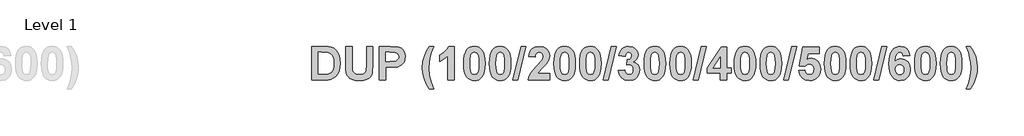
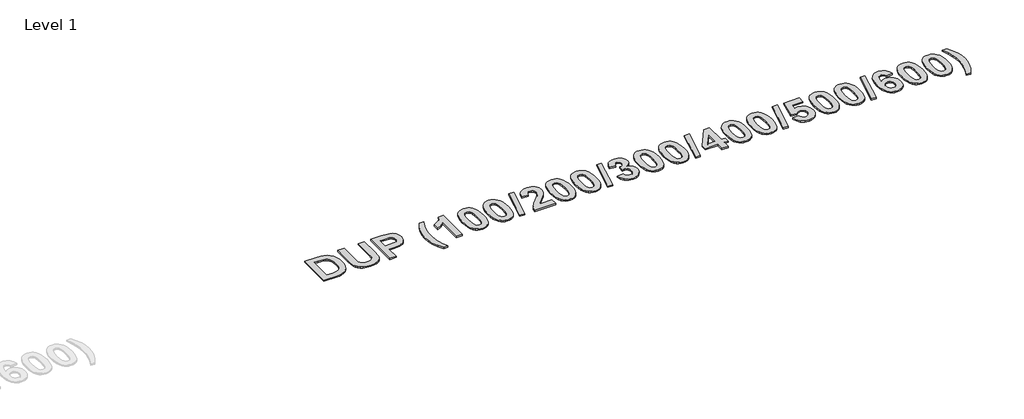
# One storey, part 39 of 42: 1 proxy.
"""IFC4 building model written with IfcOpenShell, lengths in millimetres."""

from ifc_helpers import new_model, si_unit, origin, origin_with_axes, place, context, project, spatial, polyline, outline, extrude, element, save

model = new_model("IFC4")

# Units and contexts
model_context = context("Model", 3, world=origin())
ifc_project = project(units=[si_unit("LENGTHUNIT", "METRE", prefix="MILLI")], contexts=[model_context])

# Site, building, storey
site = spatial("IfcSite", under=ifc_project)
building = spatial("IfcBuilding", under=site)
storey = spatial("IfcBuildingStorey", under=building, Name="Level 1", Elevation=0.0)

# Proxy
placement = place(None, origin())
element("IfcBuildingElementProxy", 1, Name="300mm Arial 2", ObjectType="300mm Arial 2", at=placement, inside=storey, context=model_context, shape_type="SweptSolid", body=[
    extrude(outline(polyline([(37906.8730509, 14542.68636), (38001.3204272, 14542.68636), (38029.4711857, 14541.4686025), (38050.0307284, 14537.8153299), (38070.9382018, 14528.6188883), (38088.6194086, 14514.314191), (38102.7659555, 14495.5575621), (38113.0694494, 14473.0053252), (38119.3559249, 14445.700671), (38121.4514168, 14412.6867899), (38119.4903527, 14383.397349), (38113.6071605, 14358.4095971), (38101.9356662, 14333.2320648), (38086.1522634, 14313.3683835), (38070.3688606, 14301.7601494), (38049.840948, 14292.9986212), (38029.8665615, 14288.9657878), (38004.103873, 14287.62151), (37906.8730509, 14287.62151), (37906.8730509, 14542.68636)]), holes=[polyline([(37955.4568319, 14498.1512275), (37955.4568319, 14332.1566425), (37996.8289578, 14332.1566425), (38030.3568275, 14334.5605275), (38052.719284, 14344.9668192), (38060.7928582, 14354.7009719), (38067.2374841, 14369.1638194), (38071.4600979, 14389.0591308), (38072.8676358, 14415.0906749), (38071.4600979, 14440.7584732), (38067.2374841, 14459.6890675), (38060.4923726, 14473.5430363), (38051.5173415, 14483.980958), (38040.0593502, 14491.2875032), (38025.8653582, 14495.7473425), (37980.3813237, 14498.1512275), (37955.4568319, 14498.1512275)])]), origin_with_axes(), (0.0, 0.0, 1.0), 10.0),
    extrude(outline(polyline([(38161.9379009, 14542.68636), (38210.5216819, 14542.68636), (38210.5216819, 14405.0955741), (38212.6092662, 14362.5847658), (38218.6980538, 14348.5489241), (38229.7527618, 14337.5653838), (38245.7733901, 14330.4723415), (38266.7599387, 14328.1079941), (38287.7227648, 14330.3379138), (38302.7865836, 14337.0276727), (38312.4891062, 14346.9674208), (38317.3680439, 14358.9473082), (38319.835189, 14402.1223479), (38319.835189, 14542.68636), (38368.4189699, 14542.68636), (38368.4189699, 14408.891182), (38364.1805411, 14344.0495473), (38358.1550136, 14326.5976585), (38348.5552887, 14312.0715508), (38335.2469385, 14300.3447039), (38318.0955354, 14291.2905976), (38296.1047322, 14285.5022956), (38268.2781819, 14283.5728616), (38235.6833991, 14285.676261), (38212.039925, 14291.9864591), (38194.8806144, 14301.6652592), (38181.7383221, 14313.8744646), (38172.5023429, 14327.6809882), (38167.0619716, 14342.1517433), (38163.2189186, 14369.2587096), (38161.9379009, 14406.8035977), (38161.9379009, 14542.68636)])), origin_with_axes(), (0.0, 0.0, 1.0), 10.0),
    extrude(outline(polyline([(38417.0027509, 14287.62151), (38417.0027509, 14542.68636), (38499.1776616, 14542.68636), (38560.0971682, 14538.8907521), (38580.1427224, 14529.8366458), (38596.6298941, 14514.0611505), (38607.6608796, 14492.1494225), (38611.3378747, 14464.6866179), (38609.1791227, 14443.2018958), (38602.7028668, 14425.4337064), (38592.8975464, 14411.2318069), (38580.7516011, 14400.4459544), (38553.707895, 14388.3948994), (38499.6204826, 14384.7890719), (38465.5865318, 14384.7890719), (38465.5865318, 14287.62151), (38417.0027509, 14287.62151)]), holes=[polyline([(38465.5865318, 14498.1512275), (38465.5865318, 14429.3242044), (38495.7616145, 14429.3242044), (38539.316215, 14433.1198123), (38556.5229708, 14445.0443471), (38561.196313, 14453.8295979), (38562.7540937, 14463.9274964), (38560.5637117, 14475.9943664), (38553.9925655, 14485.7522417), (38544.0844475, 14492.7424862), (38531.8831496, 14496.506464), (38492.2190472, 14498.1512275), (38465.5865318, 14498.1512275)])]), origin_with_axes(), (0.0, 0.0, 1.0), 10.0),
    extrude(outline(polyline([(38825.9162406, 14218.794487), (38793.5270533, 14218.794487), (38770.8562037, 14258.4664969), (38754.3374018, 14299.6725651), (38744.2553184, 14340.9735234), (38740.8946239, 14380.9302039), (38745.0065324, 14428.3278574), (38757.3422581, 14473.1002154), (38773.5368517, 14509.3799008), (38793.5270533, 14542.68636), (38825.9162406, 14542.68636), (38808.3536466, 14495.4468568), (38797.2910311, 14455.8301995), (38791.4315614, 14418.9495429), (38789.4784049, 14379.9180418), (38794.1596546, 14323.2685941), (38807.0014613, 14268.2006497), (38825.9162406, 14218.794487)])), origin_with_axes(), (0.0, 0.0, 1.0), 10.0),
    extrude(outline(polyline([(38979.7648802, 14287.62151), (38931.1810993, 14287.62151), (38931.1810993, 14469.9372088), (38903.125231, 14446.0565092), (38870.4513731, 14429.3242044), (38870.4513731, 14477.9079854), (38889.9196786, 14486.9937218), (38911.0011174, 14501.7254249), (38929.4572607, 14520.7430019), (38941.0496798, 14542.68636), (38979.7648802, 14542.68636), (38979.7648802, 14287.62151)])), origin_with_axes(), (0.0, 0.0, 1.0), 10.0),
    extrude(outline(polyline([(39133.6135199, 14542.68636), (39150.7451543, 14541.0415966), (39165.892002, 14536.1073063), (39179.0540631, 14527.8834892), (39190.2313376, 14516.3701453), (39200.886716, 14498.2421639), (39208.4977005, 14474.9822043), (39213.0642913, 14446.5902666), (39214.5864882, 14413.0663507), (39213.0563837, 14379.5740648), (39208.4660704, 14351.150497), (39200.8155483, 14327.7956472), (39190.1048173, 14309.5095155), (39178.9828954, 14298.1622294), (39165.8603719, 14290.0570251), (39150.7372467, 14285.1939025), (39133.6135199, 14283.5728616), (39116.3059433, 14285.3520528), (39100.7577891, 14290.6896264), (39086.9690574, 14299.5855824), (39074.939748, 14312.0399207), (39065.1838496, 14329.0608499), (39058.2153507, 14351.6565781), (39054.0342514, 14379.8271054), (39052.6405517, 14413.5724317), (39054.1706561, 14446.8986597), (39058.7609694, 14475.2036148), (39066.4114915, 14498.4872969), (39077.1222225, 14516.7497061), (39088.2441444, 14528.0969922), (39101.3666679, 14536.2021965), (39116.4897931, 14541.0653191), (39133.6135199, 14542.68636)]), holes=[polyline([(39133.6135199, 14498.1512275), (39117.4189263, 14492.8057464), (39111.0929131, 14485.3331433), (39106.4116634, 14473.6062965), (39102.5211653, 14449.4567413), (39101.2243326, 14413.0663507), (39102.37883, 14377.1583186), (39105.8423222, 14354.5823591), (39111.0691906, 14341.3293616), (39117.5138165, 14333.3902151), (39133.6135199, 14328.1079941), (39149.8081136, 14333.4534752), (39156.1341267, 14340.9260783), (39160.8153764, 14352.6529251), (39164.7058745, 14376.6759601), (39166.0027072, 14413.0663507), (39164.8482098, 14448.9348452), (39161.3847176, 14471.5187121), (39156.1578493, 14484.8112472), (39149.7132234, 14492.8057464), (39133.6135199, 14498.1512275)])]), origin_with_axes(), (0.0, 0.0, 1.0), 10.0),
    extrude(outline(polyline([(39327.9486437, 14542.68636), (39345.0802781, 14541.0415966), (39360.2271258, 14536.1073063), (39373.3891869, 14527.8834892), (39384.5664614, 14516.3701453), (39395.2218398, 14498.2421639), (39402.8328243, 14474.9822043), (39407.3994151, 14446.5902666), (39408.921612, 14413.0663507), (39407.3915075, 14379.5740648), (39402.8011943, 14351.150497), (39395.1506721, 14327.7956472), (39384.4399411, 14309.5095155), (39373.3180192, 14298.1622294), (39360.1954957, 14290.0570251), (39345.0723705, 14285.1939025), (39327.9486437, 14283.5728616), (39310.6410671, 14285.3520528), (39295.0929129, 14290.6896264), (39281.3041812, 14299.5855824), (39269.2748718, 14312.0399207), (39259.5189734, 14329.0608499), (39252.5504746, 14351.6565781), (39248.3693752, 14379.8271054), (39246.9756755, 14413.5724317), (39248.5057799, 14446.8986597), (39253.0960932, 14475.2036148), (39260.7466153, 14498.4872969), (39271.4573463, 14516.7497061), (39282.5792682, 14528.0969922), (39295.7017917, 14536.2021965), (39310.8249169, 14541.0653191), (39327.9486437, 14542.68636)]), holes=[polyline([(39327.9486437, 14498.1512275), (39311.7540501, 14492.8057464), (39305.4280369, 14485.3331433), (39300.7467872, 14473.6062965), (39296.8562891, 14449.4567413), (39295.5594564, 14413.0663507), (39296.7139538, 14377.1583186), (39300.177446, 14354.5823591), (39305.4043144, 14341.3293616), (39311.8489403, 14333.3902151), (39327.9486437, 14328.1079941), (39344.1432374, 14333.4534752), (39350.4692505, 14340.9260783), (39355.1505002, 14352.6529251), (39359.0409983, 14376.6759601), (39360.337831, 14413.0663507), (39359.1833336, 14448.9348452), (39355.7198414, 14471.5187121), (39350.4929731, 14484.8112472), (39344.0483472, 14492.8057464), (39327.9486437, 14498.1512275)])]), origin_with_axes(), (0.0, 0.0, 1.0), 10.0),
    extrude(outline(polyline([(39424.2305638, 14287.62151), (39484.96029, 14542.68636), (39522.2837675, 14542.68636), (39461.5540413, 14287.62151), (39424.2305638, 14287.62151)])), origin_with_axes(), (0.0, 0.0, 1.0), 10.0),
    extrude(outline(polyline([(39700.4242977, 14336.205291), (39700.4242977, 14287.62151), (39538.4783612, 14287.62151), (39543.6498769, 14312.1269034), (39553.9770934, 14335.2880191), (39573.1607282, 14361.469806), (39604.9014992, 14395.0372132), (39642.4780173, 14435.7767379), (39649.4998919, 14450.4847184), (39651.8405167, 14465.0029186), (39649.8715451, 14479.1494655), (39643.9646304, 14489.5794797), (39634.5942234, 14496.0082905), (39622.2347752, 14498.1512275), (39609.9623097, 14496.0399206), (39600.47329, 14489.7059999), (39594.0840167, 14478.4852341), (39591.1107905, 14461.7133918), (39542.5270096, 14466.141601), (39551.1303875, 14501.2905115), (39558.7532333, 14514.5296709), (39568.5901837, 14524.878633), (39593.2141899, 14538.2344283), (39623.3101974, 14542.68636), (39655.4463442, 14537.6967171), (39679.8647549, 14522.7277885), (39695.284412, 14500.3416095), (39700.4242977, 14473.1002154), (39694.794146, 14440.9640686), (39676.9547889, 14409.0177023), (39646.7480761, 14377.134596), (39619.0085085, 14349.4899186), (39609.8990496, 14336.205291), (39700.4242977, 14336.205291)])), origin_with_axes(), (0.0, 0.0, 1.0), 10.0),
    extrude(outline(polyline([(39813.7864532, 14542.68636), (39830.9180876, 14541.0415966), (39846.0649353, 14536.1073063), (39859.2269964, 14527.8834892), (39870.4042709, 14516.3701453), (39881.0596493, 14498.2421639), (39888.6706338, 14474.9822043), (39893.2372246, 14446.5902666), (39894.7594215, 14413.0663507), (39893.229317, 14379.5740648), (39888.6390038, 14351.150497), (39880.9884816, 14327.7956472), (39870.2777506, 14309.5095155), (39859.1558287, 14298.1622294), (39846.0333052, 14290.0570251), (39830.9101801, 14285.1939025), (39813.7864532, 14283.5728616), (39796.4788766, 14285.3520528), (39780.9307225, 14290.6896264), (39767.1419907, 14299.5855824), (39755.1126813, 14312.0399207), (39745.3567829, 14329.0608499), (39738.3882841, 14351.6565781), (39734.2071847, 14379.8271054), (39732.813485, 14413.5724317), (39734.3435894, 14446.8986597), (39738.9339027, 14475.2036148), (39746.5844248, 14498.4872969), (39757.2951558, 14516.7497061), (39768.4170777, 14528.0969922), (39781.5396012, 14536.2021965), (39796.6627264, 14541.0653191), (39813.7864532, 14542.68636)]), holes=[polyline([(39813.7864532, 14498.1512275), (39797.5918596, 14492.8057464), (39791.2658464, 14485.3331433), (39786.5845967, 14473.6062965), (39782.6940986, 14449.4567413), (39781.3972659, 14413.0663507), (39782.5517633, 14377.1583186), (39786.0152555, 14354.5823591), (39791.2421239, 14341.3293616), (39797.6867498, 14333.3902151), (39813.7864532, 14328.1079941), (39829.9810469, 14333.4534752), (39836.30706, 14340.9260783), (39840.9883097, 14352.6529251), (39844.8788078, 14376.6759601), (39846.1756405, 14413.0663507), (39845.0211431, 14448.9348452), (39841.5576509, 14471.5187121), (39836.3307826, 14484.8112472), (39829.8861567, 14492.8057464), (39813.7864532, 14498.1512275)])]), origin_with_axes(), (0.0, 0.0, 1.0), 10.0),
    extrude(outline(polyline([(40008.121577, 14542.68636), (40025.2532114, 14541.0415966), (40040.4000591, 14536.1073063), (40053.5621202, 14527.8834892), (40064.7393947, 14516.3701453), (40075.3947731, 14498.2421639), (40083.0057576, 14474.9822043), (40087.5723484, 14446.5902666), (40089.0945453, 14413.0663507), (40087.5644408, 14379.5740648), (40082.9741276, 14351.150497), (40075.3236054, 14327.7956472), (40064.6128744, 14309.5095155), (40053.4909525, 14298.1622294), (40040.368429, 14290.0570251), (40025.2453039, 14285.1939025), (40008.121577, 14283.5728616), (39990.8140004, 14285.3520528), (39975.2658463, 14290.6896264), (39961.4771145, 14299.5855824), (39949.4478051, 14312.0399207), (39939.6919067, 14329.0608499), (39932.7234079, 14351.6565781), (39928.5423085, 14379.8271054), (39927.1486088, 14413.5724317), (39928.6787132, 14446.8986597), (39933.2690265, 14475.2036148), (39940.9195486, 14498.4872969), (39951.6302796, 14516.7497061), (39962.7522015, 14528.0969922), (39975.874725, 14536.2021965), (39990.9978502, 14541.0653191), (40008.121577, 14542.68636)]), holes=[polyline([(40008.121577, 14498.1512275), (39991.9269834, 14492.8057464), (39985.6009702, 14485.3331433), (39980.9197205, 14473.6062965), (39977.0292224, 14449.4567413), (39975.7323897, 14413.0663507), (39976.8868871, 14377.1583186), (39980.3503793, 14354.5823591), (39985.5772477, 14341.3293616), (39992.0218736, 14333.3902151), (40008.121577, 14328.1079941), (40024.3161707, 14333.4534752), (40030.6421838, 14340.9260783), (40035.3234335, 14352.6529251), (40039.2139316, 14376.6759601), (40040.5107643, 14413.0663507), (40039.3562669, 14448.9348452), (40035.8927747, 14471.5187121), (40030.6659064, 14484.8112472), (40024.2212805, 14492.8057464), (40008.121577, 14498.1512275)])]), origin_with_axes(), (0.0, 0.0, 1.0), 10.0),
    extrude(outline(polyline([(40104.4034971, 14287.62151), (40165.1332233, 14542.68636), (40202.4567008, 14542.68636), (40141.7269746, 14287.62151), (40104.4034971, 14287.62151)])), origin_with_axes(), (0.0, 0.0, 1.0), 10.0),
    extrude(outline(polyline([(40218.6512945, 14358.9156782), (40267.2350754, 14364.5458298), (40270.9832382, 14348.9205774), (40278.1790782, 14337.4704936), (40288.0318436, 14330.448619), (40299.750783, 14328.1079941), (40312.3237341, 14330.7886422), (40322.7142107, 14338.8305864), (40329.6886402, 14351.4114451), (40332.01345, 14367.7088364), (40329.8863281, 14383.1284935), (40323.5049623, 14394.9739531), (40314.0554802, 14402.5177237), (40302.7240092, 14405.032314), (40283.4296691, 14401.4264865), (40287.6680979, 14441.4701497), (40301.4983441, 14443.2098033), (40311.6120576, 14449.4409262), (40317.803643, 14459.3095068), (40319.8675048, 14471.961533), (40318.3255391, 14482.7078479), (40313.699642, 14491.0344627), (40306.5117095, 14496.3720363), (40297.2836379, 14498.1512275), (40287.8974159, 14496.0873657), (40279.9819919, 14489.8957803), (40274.2174124, 14479.7346217), (40271.2837238, 14465.7620402), (40222.6999429, 14473.0369553), (40228.2589269, 14494.7747179), (40236.0794607, 14511.6572655), (40246.802053, 14524.5702399), (40261.0672126, 14534.3992828), (40278.0604654, 14540.6145907), (40296.9673372, 14542.68636), (40327.6168709, 14536.9455031), (40340.403325, 14529.7694319), (40351.4975705, 14519.7229323), (40364.2128569, 14499.7011007), (40368.4512857, 14477.212124), (40366.1778748, 14461.2666171), (40359.3576418, 14447.0212262), (40347.990587, 14434.4759514), (40332.0767102, 14423.6307926), (40351.9403914, 14416.0791144), (40367.3758635, 14402.7865793), (40377.2918891, 14384.9234997), (40380.597231, 14363.660188), (40374.7377613, 14332.8920416), (40357.1593523, 14307.0107403), (40344.7228058, 14296.7566684), (40330.8510451, 14289.4323313), (40298.801881, 14283.5728616), (40268.5398156, 14288.7839149), (40243.923717, 14304.4170749), (40226.7090537, 14328.4638324), (40218.6512945, 14358.9156782)])), origin_with_axes(), (0.0, 0.0, 1.0), 10.0),
    extrude(outline(polyline([(40493.9593865, 14542.68636), (40511.0910209, 14541.0415966), (40526.2378686, 14536.1073063), (40539.3999297, 14527.8834892), (40550.5772042, 14516.3701453), (40561.2325826, 14498.2421639), (40568.8435671, 14474.9822043), (40573.4101579, 14446.5902666), (40574.9323548, 14413.0663507), (40573.4022503, 14379.5740648), (40568.8119371, 14351.150497), (40561.1614149, 14327.7956472), (40550.4506839, 14309.5095155), (40539.328762, 14298.1622294), (40526.2062385, 14290.0570251), (40511.0831134, 14285.1939025), (40493.9593865, 14283.5728616), (40476.6518099, 14285.3520528), (40461.1036558, 14290.6896264), (40447.314924, 14299.5855824), (40435.2856146, 14312.0399207), (40425.5297162, 14329.0608499), (40418.5612174, 14351.6565781), (40414.380118, 14379.8271054), (40412.9864183, 14413.5724317), (40414.5165227, 14446.8986597), (40419.106836, 14475.2036148), (40426.7573581, 14498.4872969), (40437.4680891, 14516.7497061), (40448.590011, 14528.0969922), (40461.7125345, 14536.2021965), (40476.8356597, 14541.0653191), (40493.9593865, 14542.68636)]), holes=[polyline([(40493.9593865, 14498.1512275), (40477.7647929, 14492.8057464), (40471.4387797, 14485.3331433), (40466.75753, 14473.6062965), (40462.8670319, 14449.4567413), (40461.5701992, 14413.0663507), (40462.7246966, 14377.1583186), (40466.1881888, 14354.5823591), (40471.4150572, 14341.3293616), (40477.8596831, 14333.3902151), (40493.9593865, 14328.1079941), (40510.1539802, 14333.4534752), (40516.4799933, 14340.9260783), (40521.161243, 14352.6529251), (40525.0517411, 14376.6759601), (40526.3485738, 14413.0663507), (40525.1940764, 14448.9348452), (40521.7305842, 14471.5187121), (40516.5037159, 14484.8112472), (40510.05909, 14492.8057464), (40493.9593865, 14498.1512275)])]), origin_with_axes(), (0.0, 0.0, 1.0), 10.0),
    extrude(outline(polyline([(40688.2945103, 14542.68636), (40705.4261447, 14541.0415966), (40720.5729924, 14536.1073063), (40733.7350535, 14527.8834892), (40744.912328, 14516.3701453), (40755.5677064, 14498.2421639), (40763.1786909, 14474.9822043), (40767.7452817, 14446.5902666), (40769.2674786, 14413.0663507), (40767.7373741, 14379.5740648), (40763.1470609, 14351.150497), (40755.4965387, 14327.7956472), (40744.7858077, 14309.5095155), (40733.6638858, 14298.1622294), (40720.5413623, 14290.0570251), (40705.4182372, 14285.1939025), (40688.2945103, 14283.5728616), (40670.9869337, 14285.3520528), (40655.4387796, 14290.6896264), (40641.6500478, 14299.5855824), (40629.6207384, 14312.0399207), (40619.86484, 14329.0608499), (40612.8963412, 14351.6565781), (40608.7152418, 14379.8271054), (40607.3215421, 14413.5724317), (40608.8516465, 14446.8986597), (40613.4419598, 14475.2036148), (40621.0924819, 14498.4872969), (40631.8032129, 14516.7497061), (40642.9251348, 14528.0969922), (40656.0476583, 14536.2021965), (40671.1707835, 14541.0653191), (40688.2945103, 14542.68636)]), holes=[polyline([(40688.2945103, 14498.1512275), (40672.0999167, 14492.8057464), (40665.7739035, 14485.3331433), (40661.0926538, 14473.6062965), (40657.2021557, 14449.4567413), (40655.905323, 14413.0663507), (40657.0598204, 14377.1583186), (40660.5233126, 14354.5823591), (40665.750181, 14341.3293616), (40672.1948069, 14333.3902151), (40688.2945103, 14328.1079941), (40704.489104, 14333.4534752), (40710.8151171, 14340.9260783), (40715.4963668, 14352.6529251), (40719.3868649, 14376.6759601), (40720.6836976, 14413.0663507), (40719.5292002, 14448.9348452), (40716.065708, 14471.5187121), (40710.8388397, 14484.8112472), (40704.3942138, 14492.8057464), (40688.2945103, 14498.1512275)])]), origin_with_axes(), (0.0, 0.0, 1.0), 10.0),
    extrude(outline(polyline([(40784.5764304, 14287.62151), (40845.3061566, 14542.68636), (40882.6296341, 14542.68636), (40821.8999079, 14287.62151), (40784.5764304, 14287.62151)])), origin_with_axes(), (0.0, 0.0, 1.0), 10.0),
    extrude(outline(polyline([(40987.8944929, 14287.62151), (40987.8944929, 14340.2539394), (40890.726931, 14340.2539394), (40890.726931, 14380.5506431), (40994.3470263, 14538.6377116), (41036.4782738, 14538.6377116), (41036.4782738, 14380.7404235), (41068.8674611, 14380.7404235), (41068.8674611, 14340.2539394), (41036.4782738, 14340.2539394), (41036.4782738, 14287.62151), (40987.8944929, 14287.62151)]), holes=[polyline([(40987.8944929, 14380.7404235), (40987.8944929, 14463.6111957), (40933.6173001, 14380.7404235), (40987.8944929, 14380.7404235)])]), origin_with_axes(), (0.0, 0.0, 1.0), 10.0),
    extrude(outline(polyline([(41174.1323198, 14542.68636), (41191.2639542, 14541.0415966), (41206.4108019, 14536.1073063), (41219.572863, 14527.8834892), (41230.7501375, 14516.3701453), (41241.4055159, 14498.2421639), (41249.0165004, 14474.9822043), (41253.5830912, 14446.5902666), (41255.1052881, 14413.0663507), (41253.5751837, 14379.5740648), (41248.9848704, 14351.150497), (41241.3343482, 14327.7956472), (41230.6236172, 14309.5095155), (41219.5016954, 14298.1622294), (41206.3791718, 14290.0570251), (41191.2560467, 14285.1939025), (41174.1323198, 14283.5728616), (41156.8247432, 14285.3520528), (41141.2765891, 14290.6896264), (41127.4878573, 14299.5855824), (41115.4585479, 14312.0399207), (41105.7026495, 14329.0608499), (41098.7341507, 14351.6565781), (41094.5530514, 14379.8271054), (41093.1593516, 14413.5724317), (41094.689456, 14446.8986597), (41099.2797693, 14475.2036148), (41106.9302914, 14498.4872969), (41117.6410224, 14516.7497061), (41128.7629443, 14528.0969922), (41141.8854678, 14536.2021965), (41157.008593, 14541.0653191), (41174.1323198, 14542.68636)]), holes=[polyline([(41174.1323198, 14498.1512275), (41157.9377262, 14492.8057464), (41151.611713, 14485.3331433), (41146.9304633, 14473.6062965), (41143.0399652, 14449.4567413), (41141.7431325, 14413.0663507), (41142.8976299, 14377.1583186), (41146.3611221, 14354.5823591), (41151.5879905, 14341.3293616), (41158.0326164, 14333.3902151), (41174.1323198, 14328.1079941), (41190.3269135, 14333.4534752), (41196.6529266, 14340.9260783), (41201.3341764, 14352.6529251), (41205.2246744, 14376.6759601), (41206.5215071, 14413.0663507), (41205.3670097, 14448.9348452), (41201.9035175, 14471.5187121), (41196.6766492, 14484.8112472), (41190.2320233, 14492.8057464), (41174.1323198, 14498.1512275)])]), origin_with_axes(), (0.0, 0.0, 1.0), 10.0),
    extrude(outline(polyline([(41368.4674436, 14542.68636), (41385.599078, 14541.0415966), (41400.7459257, 14536.1073063), (41413.9079868, 14527.8834892), (41425.0852613, 14516.3701453), (41435.7406397, 14498.2421639), (41443.3516242, 14474.9822043), (41447.918215, 14446.5902666), (41449.4404119, 14413.0663507), (41447.9103075, 14379.5740648), (41443.3199942, 14351.150497), (41435.669472, 14327.7956472), (41424.958741, 14309.5095155), (41413.8368192, 14298.1622294), (41400.7142956, 14290.0570251), (41385.5911705, 14285.1939025), (41368.4674436, 14283.5728616), (41351.159867, 14285.3520528), (41335.6117129, 14290.6896264), (41321.8229811, 14299.5855824), (41309.7936717, 14312.0399207), (41300.0377733, 14329.0608499), (41293.0692745, 14351.6565781), (41288.8881752, 14379.8271054), (41287.4944754, 14413.5724317), (41289.0245798, 14446.8986597), (41293.6148931, 14475.2036148), (41301.2654152, 14498.4872969), (41311.9761462, 14516.7497061), (41323.0980681, 14528.0969922), (41336.2205916, 14536.2021965), (41351.3437168, 14541.0653191), (41368.4674436, 14542.68636)]), holes=[polyline([(41368.4674436, 14498.1512275), (41352.27285, 14492.8057464), (41345.9468368, 14485.3331433), (41341.2655871, 14473.6062965), (41337.375089, 14449.4567413), (41336.0782563, 14413.0663507), (41337.2327537, 14377.1583186), (41340.6962459, 14354.5823591), (41345.9231143, 14341.3293616), (41352.3677402, 14333.3902151), (41368.4674436, 14328.1079941), (41384.6620373, 14333.4534752), (41390.9880504, 14340.9260783), (41395.6693002, 14352.6529251), (41399.5597982, 14376.6759601), (41400.8566309, 14413.0663507), (41399.7021335, 14448.9348452), (41396.2386413, 14471.5187121), (41391.011773, 14484.8112472), (41384.5671471, 14492.8057464), (41368.4674436, 14498.1512275)])]), origin_with_axes(), (0.0, 0.0, 1.0), 10.0),
    extrude(outline(polyline([(41464.7493637, 14287.62151), (41525.4790899, 14542.68636), (41562.8025674, 14542.68636), (41502.0728412, 14287.62151), (41464.7493637, 14287.62151)])), origin_with_axes(), (0.0, 0.0, 1.0), 10.0),
    extrude(outline(polyline([(41578.9971611, 14359.4217592), (41623.5322936, 14364.5458298), (41627.6758322, 14349.4741035), (41635.9312794, 14337.9133145), (41647.0334325, 14330.5593242), (41659.7170888, 14328.1079941), (41673.9110808, 14330.709567), (41685.7486329, 14338.5142858), (41693.743132, 14351.5537804), (41696.407965, 14369.8596809), (41693.9329124, 14387.0189915), (41686.5077545, 14399.275642), (41675.1130233, 14406.6296323), (41660.7292509, 14409.0809624), (41641.9093618, 14404.0201519), (41625.177057, 14388.8377203), (41583.0458095, 14395.1004733), (41611.3863484, 14538.6377116), (41732.8458008, 14538.6377116), (41732.8458008, 14490.0539306), (41650.67089, 14490.0539306), (41640.8655696, 14443.6842543), (41656.3484868, 14451.1331348), (41672.1793347, 14453.6160949), (41700.2984631, 14447.8673305), (41723.799602, 14430.6210371), (41739.69371, 14404.2020247), (41744.991746, 14370.9351031), (41740.5793518, 14342.009408), (41727.3421693, 14316.3416097), (41714.1247556, 14302.0052824), (41698.5746245, 14291.7650486), (41680.6917761, 14285.6209084), (41660.4762104, 14283.5728616), (41629.4708385, 14288.7127473), (41604.7756646, 14304.1324043), (41587.5610014, 14328.2345144), (41578.9971611, 14359.4217592)])), origin_with_axes(), (0.0, 0.0, 1.0), 10.0),
    extrude(outline(polyline([(41854.3052531, 14542.68636), (41871.4368875, 14541.0415966), (41886.5837352, 14536.1073063), (41899.7457963, 14527.8834892), (41910.9230708, 14516.3701453), (41921.5784492, 14498.2421639), (41929.1894337, 14474.9822043), (41933.7560245, 14446.5902666), (41935.2782214, 14413.0663507), (41933.748117, 14379.5740648), (41929.1578037, 14351.150497), (41921.5072815, 14327.7956472), (41910.7965505, 14309.5095155), (41899.6746287, 14298.1622294), (41886.5521051, 14290.0570251), (41871.42898, 14285.1939025), (41854.3052531, 14283.5728616), (41836.9976765, 14285.3520528), (41821.4495224, 14290.6896264), (41807.6607906, 14299.5855824), (41795.6314812, 14312.0399207), (41785.8755828, 14329.0608499), (41778.907084, 14351.6565781), (41774.7259847, 14379.8271054), (41773.3322849, 14413.5724317), (41774.8623893, 14446.8986597), (41779.4527026, 14475.2036148), (41787.1032247, 14498.4872969), (41797.8139558, 14516.7497061), (41808.9358776, 14528.0969922), (41822.0584011, 14536.2021965), (41837.1815263, 14541.0653191), (41854.3052531, 14542.68636)]), holes=[polyline([(41854.3052531, 14498.1512275), (41838.1106595, 14492.8057464), (41831.7846463, 14485.3331433), (41827.1033966, 14473.6062965), (41823.2128985, 14449.4567413), (41821.9160658, 14413.0663507), (41823.0705632, 14377.1583186), (41826.5340554, 14354.5823591), (41831.7609238, 14341.3293616), (41838.2055497, 14333.3902151), (41854.3052531, 14328.1079941), (41870.4998468, 14333.4534752), (41876.8258599, 14340.9260783), (41881.5071097, 14352.6529251), (41885.3976077, 14376.6759601), (41886.6944404, 14413.0663507), (41885.539943, 14448.9348452), (41882.0764508, 14471.5187121), (41876.8495825, 14484.8112472), (41870.4049566, 14492.8057464), (41854.3052531, 14498.1512275)])]), origin_with_axes(), (0.0, 0.0, 1.0), 10.0),
    extrude(outline(polyline([(42048.6403769, 14542.68636), (42065.7720113, 14541.0415966), (42080.918859, 14536.1073063), (42094.0809201, 14527.8834892), (42105.2581946, 14516.3701453), (42115.913573, 14498.2421639), (42123.5245575, 14474.9822043), (42128.0911483, 14446.5902666), (42129.6133452, 14413.0663507), (42128.0832408, 14379.5740648), (42123.4929275, 14351.150497), (42115.8424053, 14327.7956472), (42105.1316743, 14309.5095155), (42094.0097525, 14298.1622294), (42080.8872289, 14290.0570251), (42065.7641038, 14285.1939025), (42048.6403769, 14283.5728616), (42031.3328003, 14285.3520528), (42015.7846462, 14290.6896264), (42001.9959144, 14299.5855824), (41989.966605, 14312.0399207), (41980.2107066, 14329.0608499), (41973.2422078, 14351.6565781), (41969.0611085, 14379.8271054), (41967.6674087, 14413.5724317), (41969.1975131, 14446.8986597), (41973.7878264, 14475.2036148), (41981.4383485, 14498.4872969), (41992.1490796, 14516.7497061), (42003.2710014, 14528.0969922), (42016.3935249, 14536.2021965), (42031.5166501, 14541.0653191), (42048.6403769, 14542.68636)]), holes=[polyline([(42048.6403769, 14498.1512275), (42032.4457833, 14492.8057464), (42026.1197701, 14485.3331433), (42021.4385204, 14473.6062965), (42017.5480223, 14449.4567413), (42016.2511896, 14413.0663507), (42017.405687, 14377.1583186), (42020.8691792, 14354.5823591), (42026.0960476, 14341.3293616), (42032.5406735, 14333.3902151), (42048.6403769, 14328.1079941), (42064.8349706, 14333.4534752), (42071.1609837, 14340.9260783), (42075.8422335, 14352.6529251), (42079.7327315, 14376.6759601), (42081.0295642, 14413.0663507), (42079.8750668, 14448.9348452), (42076.4115746, 14471.5187121), (42071.1847063, 14484.8112472), (42064.7400804, 14492.8057464), (42048.6403769, 14498.1512275)])]), origin_with_axes(), (0.0, 0.0, 1.0), 10.0),
    extrude(outline(polyline([(42144.922297, 14287.62151), (42205.6520232, 14542.68636), (42242.9755007, 14542.68636), (42182.2457745, 14287.62151), (42144.922297, 14287.62151)])), origin_with_axes(), (0.0, 0.0, 1.0), 10.0),
    extrude(outline(polyline([(42417.0673825, 14474.9980194), (42368.4836015, 14469.8106886), (42365.5103753, 14482.4073622), (42359.8802236, 14491.2242431), (42351.877817, 14496.4194814), (42341.7878261, 14498.1512275), (42328.1868978, 14494.790533), (42316.8633343, 14484.7084495), (42308.560442, 14463.8721437), (42304.0215276, 14428.2487822), (42324.0433592, 14444.2377804), (42348.4301399, 14449.5674465), (42376.2566902, 14443.8740347), (42399.7657365, 14426.7937992), (42415.7784573, 14400.71481), (42421.1160309, 14368.0251371), (42415.6598446, 14333.587903), (42408.8396116, 14319.1982), (42399.2912855, 14306.6944396), (42387.6000225, 14296.5787492), (42374.3509787, 14289.3532561), (42343.1795489, 14283.5728616), (42325.648585, 14285.4390355), (42309.7465695, 14291.0375571), (42295.4735023, 14300.3684265), (42282.8293835, 14313.4316436), (42272.4784445, 14330.7451509), (42265.0849167, 14352.8268905), (42260.6488, 14379.6768625), (42259.1700944, 14411.295067), (42260.714037, 14443.7475144), (42265.3458647, 14471.3289317), (42273.0655776, 14494.0393189), (42283.8731757, 14511.878676), (42297.1479189, 14525.3570377), (42312.2690672, 14534.984439), (42329.2366206, 14540.7608797), (42348.0505791, 14542.68636), (42373.3704467, 14538.353041), (42393.9141744, 14525.353084), (42408.7803053, 14504.0976798), (42417.0673825, 14474.9980194)]), holes=[polyline([(42307.7538753, 14369.1005593), (42310.3791708, 14351.6803006), (42318.2550572, 14338.7673263), (42329.4995455, 14330.7728272), (42342.230647, 14328.1079941), (42354.1235517, 14330.2904687), (42363.8656119, 14336.8378923), (42370.3655904, 14348.3670512), (42372.5322499, 14365.4947318), (42370.1995326, 14383.2471062), (42363.2013805, 14395.5116642), (42352.7081062, 14402.6521515), (42339.8900221, 14405.032314), (42327.4514988, 14402.7549492), (42317.0847447, 14395.922855), (42310.0865927, 14384.6625516), (42307.7538753, 14369.1005593)])]), origin_with_axes(), (0.0, 0.0, 1.0), 10.0),
    extrude(outline(polyline([(42534.4781864, 14542.68636), (42551.6098208, 14541.0415966), (42566.7566685, 14536.1073063), (42579.9187296, 14527.8834892), (42591.0960041, 14516.3701453), (42601.7513825, 14498.2421639), (42609.362367, 14474.9822043), (42613.9289578, 14446.5902666), (42615.4511547, 14413.0663507), (42613.9210503, 14379.5740648), (42609.330737, 14351.150497), (42601.6802148, 14327.7956472), (42590.9694838, 14309.5095155), (42579.847562, 14298.1622294), (42566.7250384, 14290.0570251), (42551.6019133, 14285.1939025), (42534.4781864, 14283.5728616), (42517.1706099, 14285.3520528), (42501.6224557, 14290.6896264), (42487.8337239, 14299.5855824), (42475.8044145, 14312.0399207), (42466.0485161, 14329.0608499), (42459.0800173, 14351.6565781), (42454.898918, 14379.8271054), (42453.5052182, 14413.5724317), (42455.0353226, 14446.8986597), (42459.6256359, 14475.2036148), (42467.2761581, 14498.4872969), (42477.9868891, 14516.7497061), (42489.1088109, 14528.0969922), (42502.2313344, 14536.2021965), (42517.3544596, 14541.0653191), (42534.4781864, 14542.68636)]), holes=[polyline([(42534.4781864, 14498.1512275), (42518.2835928, 14492.8057464), (42511.9575796, 14485.3331433), (42507.2763299, 14473.6062965), (42503.3858318, 14449.4567413), (42502.0889991, 14413.0663507), (42503.2434965, 14377.1583186), (42506.7069887, 14354.5823591), (42511.9338571, 14341.3293616), (42518.378483, 14333.3902151), (42534.4781864, 14328.1079941), (42550.6727801, 14333.4534752), (42556.9987932, 14340.9260783), (42561.680043, 14352.6529251), (42565.570541, 14376.6759601), (42566.8673737, 14413.0663507), (42565.7128763, 14448.9348452), (42562.2493841, 14471.5187121), (42557.0225158, 14484.8112472), (42550.5778899, 14492.8057464), (42534.4781864, 14498.1512275)])]), origin_with_axes(), (0.0, 0.0, 1.0), 10.0),
    extrude(outline(polyline([(42728.8133102, 14542.68636), (42745.9449446, 14541.0415966), (42761.0917923, 14536.1073063), (42774.2538534, 14527.8834892), (42785.4311279, 14516.3701453), (42796.0865063, 14498.2421639), (42803.6974908, 14474.9822043), (42808.2640816, 14446.5902666), (42809.7862785, 14413.0663507), (42808.2561741, 14379.5740648), (42803.6658608, 14351.150497), (42796.0153386, 14327.7956472), (42785.3046076, 14309.5095155), (42774.1826858, 14298.1622294), (42761.0601622, 14290.0570251), (42745.9370371, 14285.1939025), (42728.8133102, 14283.5728616), (42711.5057337, 14285.3520528), (42695.9575795, 14290.6896264), (42682.1688477, 14299.5855824), (42670.1395383, 14312.0399207), (42660.3836399, 14329.0608499), (42653.4151411, 14351.6565781), (42649.2340418, 14379.8271054), (42647.840342, 14413.5724317), (42649.3704464, 14446.8986597), (42653.9607597, 14475.2036148), (42661.6112819, 14498.4872969), (42672.3220129, 14516.7497061), (42683.4439347, 14528.0969922), (42696.5664582, 14536.2021965), (42711.6895834, 14541.0653191), (42728.8133102, 14542.68636)]), holes=[polyline([(42728.8133102, 14498.1512275), (42712.6187166, 14492.8057464), (42706.2927034, 14485.3331433), (42701.6114537, 14473.6062965), (42697.7209556, 14449.4567413), (42696.4241229, 14413.0663507), (42697.5786203, 14377.1583186), (42701.0421125, 14354.5823591), (42706.2689809, 14341.3293616), (42712.7136068, 14333.3902151), (42728.8133102, 14328.1079941), (42745.0079039, 14333.4534752), (42751.333917, 14340.9260783), (42756.0151668, 14352.6529251), (42759.9056648, 14376.6759601), (42761.2024975, 14413.0663507), (42760.0480001, 14448.9348452), (42756.5845079, 14471.5187121), (42751.3576396, 14484.8112472), (42744.9130137, 14492.8057464), (42728.8133102, 14498.1512275)])]), origin_with_axes(), (0.0, 0.0, 1.0), 10.0),
    extrude(outline(polyline([(42842.1754658, 14218.794487), (42860.1729732, 14264.7846026), (42869.8517733, 14301.6968893), (42876.462457, 14341.3926217), (42878.6133015, 14379.9180418), (42876.6680525, 14418.9495429), (42870.8323053, 14455.8301995), (42859.7775974, 14495.4468568), (42842.1754658, 14542.68636), (42874.5646531, 14542.68636), (42896.7610517, 14505.3470674), (42913.3747437, 14465.8253003), (42923.7414978, 14424.9276253), (42927.1970825, 14383.4606092), (42924.4294517, 14346.9595133), (42916.1265595, 14307.9280122), (42899.4100697, 14263.060764), (42874.5646531, 14218.794487), (42842.1754658, 14218.794487)])), origin_with_axes(), (0.0, 0.0, 1.0), 10.0),
])

save(model, "model.ifc")
